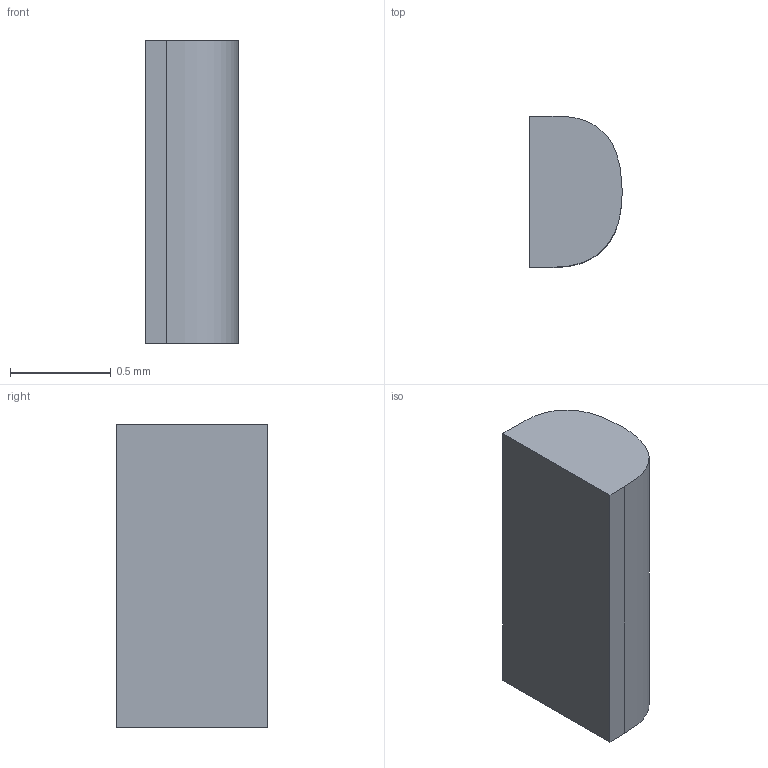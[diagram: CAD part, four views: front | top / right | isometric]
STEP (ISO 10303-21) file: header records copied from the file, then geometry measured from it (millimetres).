
FILE_DESCRIPTION(('STEP AP242 Edition 2','STEP AP242 Edition 2''CAx-IF Rec.Pracs.---Representation and Presentation of Product Manufacturing Information (PMI)---4.0---2014-10-13','STEP AP242 Edition 2''CAx-IF Rec.Pracs.---Representation and Presentation of Product Manufacturing Information (PMI)---4.0---2014-10-13''CAx-IF Rec.Pracs.---3D Tessellated Geometry---0.4---2014-09-14','STEP AP242 Edition 2''CAx-IF Rec.Pracs.---Representation and Presentation of Product Manufacturing Information (PMI)---4.0---2014-10-13''CAx-IF Rec.Pracs.---3D Tessellated Geometry---0.4---2014-09-14''2;1','STEP AP242 Edition 2''CAx-IF Rec.Pracs.---Representation and Presentation of Product Manufacturing Information (PMI)---4.0---2014-10-13''CAx-IF Rec.Pracs.---3D Tessellated Geometry---0.4---2014-09-14''2;1''CAx-IF Rec.Pracs.---User Defined Attributes---1.5---2016-08-15'),'2;1');
FILE_NAME('/vol/tmp/translate-17016349319801364938/Part Studio 2 - Part 4.step','2026-03-29T21:16:22',(''),(''),'ST-DEVELOPER v20','ONSHAPE BY PTC INC, 1.212',' ');
FILE_SCHEMA(('AP242_MANAGED_MODEL_BASED_3D_ENGINEERING_MIM_LF { 1 0 10303 442 3 1 4 }'));
Length unit declared in the file: metre
Products named in the file (1): Part 4
Bounding box: 0.46 x 0.75 x 1.5 mm (x, y, z)
Volume: 0.5 mm3; surface area: 3.8 mm2
Topology: 1 solids, 1 shells, 7 faces, 15 edges, 10 vertices
Faces by surface type: plane 5, bspline 2
Entity records: 219 total; most frequent: CARTESIAN_POINT 55, ORIENTED_EDGE 30, DIRECTION 23, EDGE_CURVE 15, LINE 11, VECTOR 11, VERTEX_POINT 10, EDGE_LOOP 7
